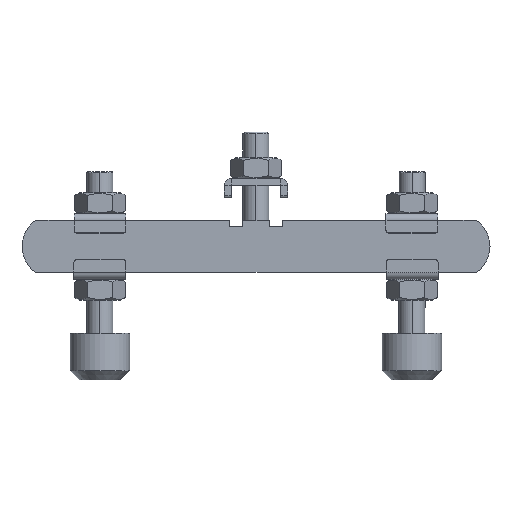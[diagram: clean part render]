
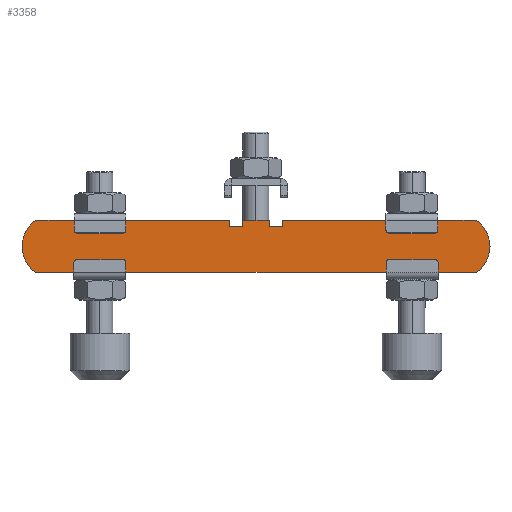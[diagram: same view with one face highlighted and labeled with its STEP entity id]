
A CAD part, top view. The second image highlights one B-rep face of the part: STEP entity #3358.
In plain terms, the highlighted planar face has unit normal (0, 0, 1).
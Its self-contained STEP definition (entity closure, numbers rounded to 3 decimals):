
#27 = DIRECTION ( 'NONE',  ( 1., 0., 0. ) ) ;
#28 = DIRECTION ( 'NONE',  ( 0., 0., 1. ) ) ;
#30 = PLANE ( 'NONE',  #2214 ) ;
#32 = FACE_OUTER_BOUND ( 'NONE', #1126, .T. ) ;
#48 = CARTESIAN_POINT ( 'NONE',  ( -78., 0., 0. ) ) ;
#153 = DIRECTION ( 'NONE',  ( -1., 0., 0. ) ) ;
#154 = CARTESIAN_POINT ( 'NONE',  ( -84.633, 10., 0. ) ) ;
#156 = LINE ( 'NONE', #154, #2184 ) ;
#169 = DIRECTION ( 'NONE',  ( 1., 0., 0. ) ) ;
#170 = CARTESIAN_POINT ( 'NONE',  ( -84.633, -10., 0. ) ) ;
#175 = LINE ( 'NONE', #170, #2179 ) ;
#176 = DIRECTION ( 'NONE',  ( -1., 0., 0. ) ) ;
#177 = CARTESIAN_POINT ( 'NONE',  ( -84.633, 10., 0. ) ) ;
#179 = LINE ( 'NONE', #177, #2178 ) ;
#184 = DIRECTION ( 'NONE',  ( 1., 0., 0. ) ) ;
#185 = DIRECTION ( 'NONE',  ( 0., 0., 1. ) ) ;
#186 = CARTESIAN_POINT ( 'NONE',  ( -78., 0., 0. ) ) ;
#196 = DIRECTION ( 'NONE',  ( -1., 0., 0. ) ) ;
#197 = DIRECTION ( 'NONE',  ( 0., 0., 1. ) ) ;
#198 = CARTESIAN_POINT ( 'NONE',  ( 78., 0., 0. ) ) ;
#224 = DIRECTION ( 'NONE',  ( -1., 0., 0. ) ) ;
#228 = LINE ( 'NONE', #233, #2157 ) ;
#233 = CARTESIAN_POINT ( 'NONE',  ( -84.633, 10., 0. ) ) ;
#240 = DIRECTION ( 'NONE',  ( -1., 0., 0. ) ) ;
#241 = DIRECTION ( 'NONE',  ( 0., 0., 1. ) ) ;
#244 = CARTESIAN_POINT ( 'NONE',  ( 78., 0., 0. ) ) ;
#265 = DIRECTION ( 'NONE',  ( 1., 0., 0. ) ) ;
#270 = DIRECTION ( 'NONE',  ( 0., 1., 0. ) ) ;
#271 = CARTESIAN_POINT ( 'NONE',  ( -5.125, 10., 0. ) ) ;
#272 = LINE ( 'NONE', #271, #2143 ) ;
#277 = CARTESIAN_POINT ( 'NONE',  ( -10.125, 7.5, 0. ) ) ;
#278 = LINE ( 'NONE', #277, #2145 ) ;
#344 = DIRECTION ( 'NONE',  ( 0., -1., 0. ) ) ;
#345 = CARTESIAN_POINT ( 'NONE',  ( 5.125, 10., 0. ) ) ;
#348 = LINE ( 'NONE', #345, #3596 ) ;
#349 = DIRECTION ( 'NONE',  ( 1., 0., 0. ) ) ;
#359 = CARTESIAN_POINT ( 'NONE',  ( 10.125, 7.5, 0. ) ) ;
#360 = LINE ( 'NONE', #359, #3594 ) ;
#414 = DIRECTION ( 'NONE',  ( 0., 1., 0. ) ) ;
#415 = CARTESIAN_POINT ( 'NONE',  ( 10.125, 10., 0. ) ) ;
#416 = LINE ( 'NONE', #415, #3570 ) ;
#529 = VERTEX_POINT ( 'NONE', #823 ) ;
#535 = ORIENTED_EDGE ( 'NONE', *, *, #2269, .F. ) ;
#538 = ORIENTED_EDGE ( 'NONE', *, *, #1921, .F. ) ;
#541 = ORIENTED_EDGE ( 'NONE', *, *, #1938, .F. ) ;
#545 = ORIENTED_EDGE ( 'NONE', *, *, #1939, .F. ) ;
#546 = VERTEX_POINT ( 'NONE', #827 ) ;
#548 = ORIENTED_EDGE ( 'NONE', *, *, #2280, .T. ) ;
#549 = ORIENTED_EDGE ( 'NONE', *, *, #1828, .F. ) ;
#556 = ORIENTED_EDGE ( 'NONE', *, *, #2297, .T. ) ;
#557 = ORIENTED_EDGE ( 'NONE', *, *, #2287, .T. ) ;
#558 = ORIENTED_EDGE ( 'NONE', *, *, #2289, .T. ) ;
#559 = ORIENTED_EDGE ( 'NONE', *, *, #2274, .T. ) ;
#560 = ORIENTED_EDGE ( 'NONE', *, *, #2292, .T. ) ;
#561 = ORIENTED_EDGE ( 'NONE', *, *, #2293, .T. ) ;
#562 = ORIENTED_EDGE ( 'NONE', *, *, #2267, .F. ) ;
#595 = VERTEX_POINT ( 'NONE', #808 ) ;
#676 = VERTEX_POINT ( 'NONE', #814 ) ;
#801 = CARTESIAN_POINT ( 'NONE',  ( 10.125, 10., 0. ) ) ;
#808 = CARTESIAN_POINT ( 'NONE',  ( 84.633, 10., 0. ) ) ;
#814 = CARTESIAN_POINT ( 'NONE',  ( -5.125, 10., 0. ) ) ;
#823 = CARTESIAN_POINT ( 'NONE',  ( -10.125, 10., 0. ) ) ;
#827 = CARTESIAN_POINT ( 'NONE',  ( 10.125, 7.5, 0. ) ) ;
#948 = VERTEX_POINT ( 'NONE', #801 ) ;
#1014 = VERTEX_POINT ( 'NONE', #2818 ) ;
#1025 = VERTEX_POINT ( 'NONE', #3270 ) ;
#1028 = VERTEX_POINT ( 'NONE', #3271 ) ;
#1042 = VERTEX_POINT ( 'NONE', #3261 ) ;
#1054 = VERTEX_POINT ( 'NONE', #3233 ) ;
#1059 = VERTEX_POINT ( 'NONE', #3217 ) ;
#1116 = VERTEX_POINT ( 'NONE', #3206 ) ;
#1126 = EDGE_LOOP ( 'NONE', ( #538, #541, #545, #548, #562, #535, #549, #560, #558, #561, #559, #557, #556 ) ) ;
#1138 = VERTEX_POINT ( 'NONE', #3164 ) ;
#1170 = VECTOR ( 'NONE', #3061, 1000. ) ;
#1828 = EDGE_CURVE ( 'NONE', #529, #1028, #3066, .T. ) ;
#1921 = EDGE_CURVE ( 'NONE', #546, #948, #416, .T. ) ;
#1938 = EDGE_CURVE ( 'NONE', #1138, #546, #360, .T. ) ;
#1939 = EDGE_CURVE ( 'NONE', #1116, #1138, #348, .T. ) ;
#2143 = VECTOR ( 'NONE', #270, 1000. ) ;
#2145 = VECTOR ( 'NONE', #265, 1000. ) ;
#2153 = CIRCLE ( 'NONE', #2156, 12. ) ;
#2156 = AXIS2_PLACEMENT_3D ( 'NONE', #244, #241, #240 ) ;
#2157 = VECTOR ( 'NONE', #224, 1000. ) ;
#2170 = CIRCLE ( 'NONE', #2172, 12. ) ;
#2172 = AXIS2_PLACEMENT_3D ( 'NONE', #198, #197, #196 ) ;
#2173 = CIRCLE ( 'NONE', #2176, 12. ) ;
#2176 = AXIS2_PLACEMENT_3D ( 'NONE', #186, #185, #184 ) ;
#2178 = VECTOR ( 'NONE', #176, 1000. ) ;
#2179 = VECTOR ( 'NONE', #169, 1000. ) ;
#2184 = VECTOR ( 'NONE', #153, 1000. ) ;
#2214 = AXIS2_PLACEMENT_3D ( 'NONE', #48, #28, #27 ) ;
#2267 = EDGE_CURVE ( 'NONE', #1059, #676, #272, .T. ) ;
#2269 = EDGE_CURVE ( 'NONE', #1028, #1059, #278, .T. ) ;
#2274 = EDGE_CURVE ( 'NONE', #1014, #1054, #2153, .T. ) ;
#2280 = EDGE_CURVE ( 'NONE', #1116, #676, #228, .T. ) ;
#2287 = EDGE_CURVE ( 'NONE', #1054, #595, #2170, .T. ) ;
#2289 = EDGE_CURVE ( 'NONE', #1025, #1042, #2173, .T. ) ;
#2292 = EDGE_CURVE ( 'NONE', #529, #1025, #179, .T. ) ;
#2293 = EDGE_CURVE ( 'NONE', #1042, #1014, #175, .T. ) ;
#2297 = EDGE_CURVE ( 'NONE', #595, #948, #156, .T. ) ;
#2818 = CARTESIAN_POINT ( 'NONE',  ( 84.633, -10., 0. ) ) ;
#3061 = DIRECTION ( 'NONE',  ( 0., -1., 0. ) ) ;
#3066 = LINE ( 'NONE', #3076, #1170 ) ;
#3076 = CARTESIAN_POINT ( 'NONE',  ( -10.125, 10., 0. ) ) ;
#3164 = CARTESIAN_POINT ( 'NONE',  ( 5.125, 7.5, 0. ) ) ;
#3206 = CARTESIAN_POINT ( 'NONE',  ( 5.125, 10., 0. ) ) ;
#3217 = CARTESIAN_POINT ( 'NONE',  ( -5.125, 7.5, 0. ) ) ;
#3233 = CARTESIAN_POINT ( 'NONE',  ( 90., 0., 0. ) ) ;
#3261 = CARTESIAN_POINT ( 'NONE',  ( -84.633, -10., 0. ) ) ;
#3270 = CARTESIAN_POINT ( 'NONE',  ( -84.633, 10., 0. ) ) ;
#3271 = CARTESIAN_POINT ( 'NONE',  ( -10.125, 7.5, 0. ) ) ;
#3358 = ADVANCED_FACE ( 'NONE', ( #32 ), #30, .T. ) ;
#3570 = VECTOR ( 'NONE', #414, 1000. ) ;
#3594 = VECTOR ( 'NONE', #349, 1000. ) ;
#3596 = VECTOR ( 'NONE', #344, 1000. ) ;
